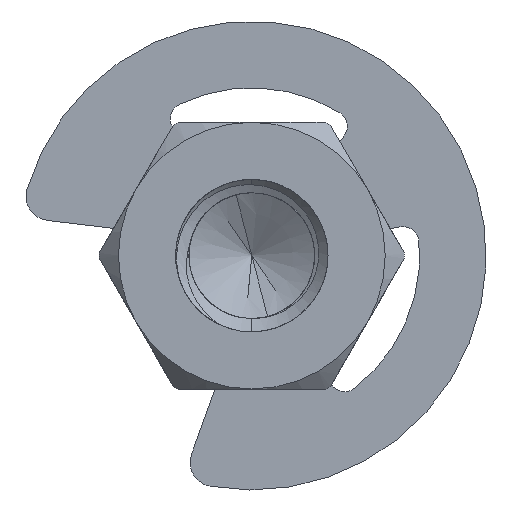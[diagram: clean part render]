
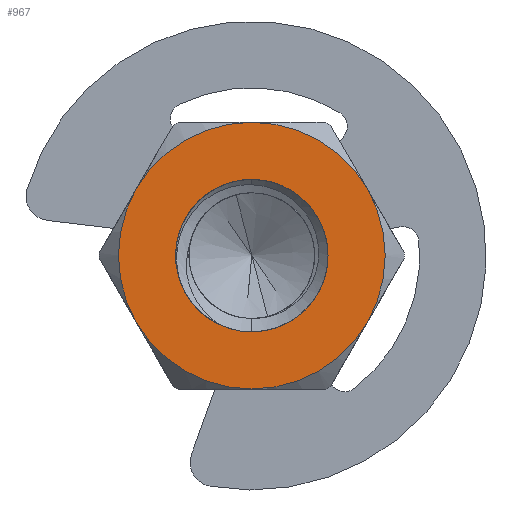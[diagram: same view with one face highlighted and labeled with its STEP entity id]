
A CAD part, front view. The second image highlights one B-rep face of the part: STEP entity #967.
In plain terms, the highlighted planar face has unit normal (0, -1, 0).
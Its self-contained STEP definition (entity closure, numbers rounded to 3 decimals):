
#125 = DIRECTION ( 'NONE',  ( 0., 1., 0. ) ) ;
#413 = AXIS2_PLACEMENT_3D ( 'NONE', #2952, #7975, #8115 ) ;
#873 = CARTESIAN_POINT ( 'NONE',  ( 0., 0., 0. ) ) ;
#904 = CARTESIAN_POINT ( 'NONE',  ( 0., 0., 3.5 ) ) ;
#967 = ADVANCED_FACE ( 'NONE', ( #1252, #6623 ), #6273, .F. ) ;
#1036 = DIRECTION ( 'NONE',  ( 0., 0., 1. ) ) ;
#1252 = FACE_BOUND ( 'NONE', #7870, .T. ) ;
#1478 = ORIENTED_EDGE ( 'NONE', *, *, #8828, .F. ) ;
#1546 = AXIS2_PLACEMENT_3D ( 'NONE', #7672, #8782, #3693 ) ;
#1597 = EDGE_CURVE ( 'NONE', #3603, #7839, #13129, .T. ) ;
#1751 = EDGE_CURVE ( 'NONE', #7946, #3603, #10032, .T. ) ;
#1815 = AXIS2_PLACEMENT_3D ( 'NONE', #3847, #11250, #4016 ) ;
#1848 = EDGE_CURVE ( 'NONE', #8610, #11411, #1904, .T. ) ;
#1904 = CIRCLE ( 'NONE', #1546, 3.5 ) ;
#2013 = ORIENTED_EDGE ( 'NONE', *, *, #7463, .F. ) ;
#2354 = CARTESIAN_POINT ( 'NONE',  ( -3.031, 0., -1.75 ) ) ;
#2357 = CARTESIAN_POINT ( 'NONE',  ( 0., 0., 2. ) ) ;
#2682 = AXIS2_PLACEMENT_3D ( 'NONE', #4387, #125, #9536 ) ;
#2926 = EDGE_CURVE ( 'NONE', #7839, #5082, #3686, .T. ) ;
#2952 = CARTESIAN_POINT ( 'NONE',  ( 0., 0., 0. ) ) ;
#3076 = DIRECTION ( 'NONE',  ( 0., 0., 1. ) ) ;
#3395 = VERTEX_POINT ( 'NONE', #904 ) ;
#3533 = CARTESIAN_POINT ( 'NONE',  ( -3.031, 0., 1.75 ) ) ;
#3603 = VERTEX_POINT ( 'NONE', #2357 ) ;
#3686 = CIRCLE ( 'NONE', #7008, 2. ) ;
#3693 = DIRECTION ( 'NONE',  ( 0., 0., 1. ) ) ;
#3714 = DIRECTION ( 'NONE',  ( 0., 1., 0. ) ) ;
#3725 = ORIENTED_EDGE ( 'NONE', *, *, #1848, .F. ) ;
#3783 = ORIENTED_EDGE ( 'NONE', *, *, #1597, .T. ) ;
#3847 = CARTESIAN_POINT ( 'NONE',  ( 0., 0., 0. ) ) ;
#3901 = CIRCLE ( 'NONE', #1815, 3.5 ) ;
#3913 = CARTESIAN_POINT ( 'NONE',  ( -1.863, 0., -0.728 ) ) ;
#4016 = DIRECTION ( 'NONE',  ( 0., 0., 1. ) ) ;
#4387 = CARTESIAN_POINT ( 'NONE',  ( 0., 0., 0. ) ) ;
#4469 = EDGE_CURVE ( 'NONE', #7541, #13291, #9341, .T. ) ;
#4553 = CIRCLE ( 'NONE', #9544, 2. ) ;
#5082 = VERTEX_POINT ( 'NONE', #8230 ) ;
#5235 = AXIS2_PLACEMENT_3D ( 'NONE', #10751, #8761, #8662 ) ;
#5251 = ORIENTED_EDGE ( 'NONE', *, *, #12415, .F. ) ;
#5508 = AXIS2_PLACEMENT_3D ( 'NONE', #6123, #10317, #7269 ) ;
#6030 = AXIS2_PLACEMENT_3D ( 'NONE', #873, #9250, #6181 ) ;
#6123 = CARTESIAN_POINT ( 'NONE',  ( 0., 0., 0. ) ) ;
#6181 = DIRECTION ( 'NONE',  ( 0., 0., 1. ) ) ;
#6273 = PLANE ( 'NONE',  #6030 ) ;
#6623 = FACE_OUTER_BOUND ( 'NONE', #8075, .T. ) ;
#6916 = DIRECTION ( 'NONE',  ( 0., 0., 1. ) ) ;
#6919 = ORIENTED_EDGE ( 'NONE', *, *, #12458, .F. ) ;
#6961 = CARTESIAN_POINT ( 'NONE',  ( 3.031, 0., 1.75 ) ) ;
#6971 = ORIENTED_EDGE ( 'NONE', *, *, #2926, .T. ) ;
#7008 = AXIS2_PLACEMENT_3D ( 'NONE', #10799, #3714, #6916 ) ;
#7269 = DIRECTION ( 'NONE',  ( 0., 0., 1. ) ) ;
#7314 = CIRCLE ( 'NONE', #413, 3.5 ) ;
#7463 = EDGE_CURVE ( 'NONE', #3395, #7541, #8683, .T. ) ;
#7541 = VERTEX_POINT ( 'NONE', #6961 ) ;
#7672 = CARTESIAN_POINT ( 'NONE',  ( 0., 0., 0. ) ) ;
#7702 = CARTESIAN_POINT ( 'NONE',  ( 0., 0., -3.5 ) ) ;
#7824 = CARTESIAN_POINT ( 'NONE',  ( 0., 0., -2. ) ) ;
#7839 = VERTEX_POINT ( 'NONE', #7824 ) ;
#7870 = EDGE_LOOP ( 'NONE', ( #12497, #10946, #3783, #6971 ) ) ;
#7946 = VERTEX_POINT ( 'NONE', #3913 ) ;
#7975 = DIRECTION ( 'NONE',  ( 0., 1., 0. ) ) ;
#8069 = ORIENTED_EDGE ( 'NONE', *, *, #4469, .F. ) ;
#8075 = EDGE_LOOP ( 'NONE', ( #2013, #5251, #3725, #1478, #6919, #8069 ) ) ;
#8115 = DIRECTION ( 'NONE',  ( 0., 0., 1. ) ) ;
#8230 = CARTESIAN_POINT ( 'NONE',  ( -0.833, 0., -1.818 ) ) ;
#8290 = CARTESIAN_POINT ( 'NONE',  ( 0., 0., 0. ) ) ;
#8463 = CARTESIAN_POINT ( 'NONE',  ( 3.031, 0., -1.75 ) ) ;
#8610 = VERTEX_POINT ( 'NONE', #2354 ) ;
#8662 = DIRECTION ( 'NONE',  ( 0., 0., 1. ) ) ;
#8683 = CIRCLE ( 'NONE', #9427, 3.5 ) ;
#8761 = DIRECTION ( 'NONE',  ( 0., 1., 0. ) ) ;
#8782 = DIRECTION ( 'NONE',  ( 0., 1., 0. ) ) ;
#8828 = EDGE_CURVE ( 'NONE', #12299, #8610, #12241, .T. ) ;
#9250 = DIRECTION ( 'NONE',  ( 0., 1., 0. ) ) ;
#9341 = CIRCLE ( 'NONE', #9408, 3.5 ) ;
#9408 = AXIS2_PLACEMENT_3D ( 'NONE', #8290, #10322, #3076 ) ;
#9427 = AXIS2_PLACEMENT_3D ( 'NONE', #10157, #13286, #10114 ) ;
#9536 = DIRECTION ( 'NONE',  ( 0., 0., 1. ) ) ;
#9544 = AXIS2_PLACEMENT_3D ( 'NONE', #12310, #13481, #1036 ) ;
#10032 = CIRCLE ( 'NONE', #2682, 2. ) ;
#10114 = DIRECTION ( 'NONE',  ( 0., 0., 1. ) ) ;
#10157 = CARTESIAN_POINT ( 'NONE',  ( 0., 0., 0. ) ) ;
#10317 = DIRECTION ( 'NONE',  ( 0., 1., 0. ) ) ;
#10322 = DIRECTION ( 'NONE',  ( 0., 1., 0. ) ) ;
#10751 = CARTESIAN_POINT ( 'NONE',  ( 0., 0., 0. ) ) ;
#10799 = CARTESIAN_POINT ( 'NONE',  ( 0., 0., 0. ) ) ;
#10946 = ORIENTED_EDGE ( 'NONE', *, *, #1751, .T. ) ;
#11250 = DIRECTION ( 'NONE',  ( 0., 1., 0. ) ) ;
#11411 = VERTEX_POINT ( 'NONE', #3533 ) ;
#12033 = EDGE_CURVE ( 'NONE', #5082, #7946, #4553, .T. ) ;
#12241 = CIRCLE ( 'NONE', #5235, 3.5 ) ;
#12299 = VERTEX_POINT ( 'NONE', #7702 ) ;
#12310 = CARTESIAN_POINT ( 'NONE',  ( 0., 0., 0. ) ) ;
#12415 = EDGE_CURVE ( 'NONE', #11411, #3395, #7314, .T. ) ;
#12458 = EDGE_CURVE ( 'NONE', #13291, #12299, #3901, .T. ) ;
#12497 = ORIENTED_EDGE ( 'NONE', *, *, #12033, .T. ) ;
#13129 = CIRCLE ( 'NONE', #5508, 2. ) ;
#13286 = DIRECTION ( 'NONE',  ( 0., 1., 0. ) ) ;
#13291 = VERTEX_POINT ( 'NONE', #8463 ) ;
#13481 = DIRECTION ( 'NONE',  ( 0., 1., 0. ) ) ;
